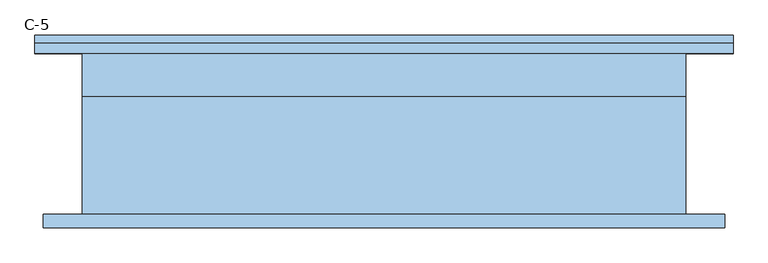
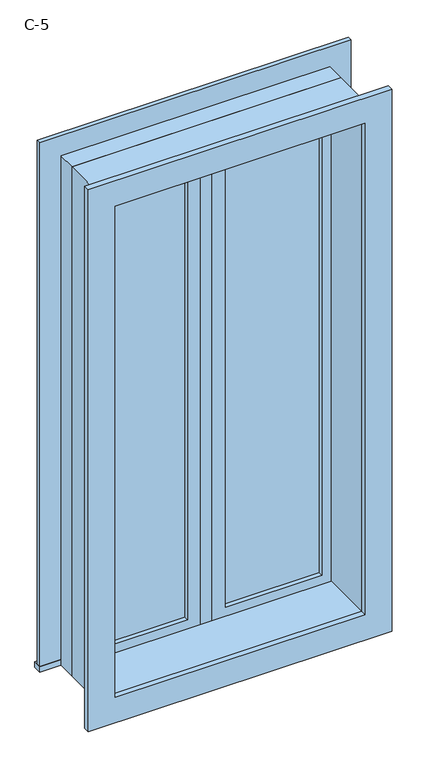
"""IFC4 building model written with IfcOpenShell, lengths in millimetres: window geometry, 双扇平开 - 带贴面 : C-5."""

from ifc_helpers import new_model, si_unit, frame, origin, place, context, project, spatial, polyline, outline, extrude, source, transform, mapped, element, save


def c_5_474962f9(model_context):
    return source(origin(), model_context, "Body", "SweptSolid", [
        extrude(outline(polyline([(63.5, 84.125), (386.5, 84.125), (386.5, 71.425), (63.5, 71.425), (63.5, 84.125)])), frame((0.0, 0.0, 964.5), z_axis=(0.0, 0.0, 1.0), x_axis=(1.0, 0.0, 0.0)), (0.0, 0.0, 1.0), 1673.0),
        extrude(outline(polyline([(2681.95, 19.05), (920.05, 19.05), (920.05, 430.95), (2681.95, 430.95), (2681.95, 19.05)]), holes=[polyline([(2637.5, 63.5), (2637.5, 386.5), (964.5, 386.5), (964.5, 63.5), (2637.5, 63.5)])]), frame((0.0, 55.55, 0.0), z_axis=(0.0, 1.0, 0.0), x_axis=(0.0, 0.0, 1.0)), (0.0, 0.0, 1.0), 44.45),
        extrude(outline(polyline([(19.05, 55.55), (-19.05, 55.55), (-19.05, 119.05), (19.05, 119.05), (19.05, 55.55)])), frame((0.0, 0.0, 920.05), z_axis=(0.0, 0.0, 1.0), x_axis=(1.0, 0.0, 0.0)), (0.0, 0.0, 1.0), 1761.9),
        extrude(outline(polyline([(-63.5, 71.425), (-386.5, 71.425), (-386.5, 84.125), (-63.5, 84.125), (-63.5, 71.425)])), frame((0.0, 0.0, 964.5), z_axis=(0.0, 0.0, 1.0), x_axis=(1.0, 0.0, 0.0)), (0.0, 0.0, 1.0), 1673.0),
        extrude(outline(polyline([(2681.95, -430.95), (920.05, -430.95), (920.05, -19.05), (2681.95, -19.05), (2681.95, -430.95)]), holes=[polyline([(2637.5, -386.5), (2637.5, -63.5), (964.5, -63.5), (964.5, -386.5), (2637.5, -386.5)])]), frame((0.0, 55.55, 0.0), z_axis=(0.0, 1.0, 0.0), x_axis=(0.0, 0.0, 1.0)), (0.0, 0.0, 1.0), 44.45),
        extrude(outline(polyline([(2701.0, -450.0), (901.0, -450.0), (901.0, 450.0), (2701.0, 450.0), (2701.0, -450.0)]), holes=[polyline([(2669.25, -418.25), (2669.25, 418.25), (932.75, 418.25), (932.75, -418.25), (2669.25, -418.25)])]), frame((0.0, -120.0, 0.0), z_axis=(0.0, 1.0, 0.0), x_axis=(0.0, 0.0, 1.0)), (0.0, 0.0, 1.0), 175.55),
        extrude(outline(polyline([(2701.0, 450.0), (2701.0, -450.0), (901.0, -450.0), (901.0, 450.0), (2701.0, 450.0)]), holes=[polyline([(2681.95, 430.95), (920.05, 430.95), (920.05, -430.95), (2681.95, -430.95), (2681.95, 430.95)])]), frame((0.0, 55.55, 0.0), z_axis=(0.0, 1.0, 0.0), x_axis=(0.0, 0.0, 1.0)), (0.0, 0.0, 1.0), 64.45),
        extrude(outline(polyline([(-520.95, 147.7), (520.95, 147.7), (520.95, 120.0), (-520.95, 120.0), (-520.95, 147.7)])), frame((0.0, 0.0, 901.0), z_axis=(0.0, 0.0, 1.0), x_axis=(1.0, 0.0, 0.0)), (0.0, 0.0, 1.0), 19.05),
        extrude(outline(polyline([(2681.95, -430.95), (2681.95, 430.95), (920.05, 430.95), (920.05, 520.95), (2771.95, 520.95), (2771.95, -520.95), (920.05, -520.95), (920.05, -430.95), (2681.95, -430.95)])), frame((0.0, 120.0, 0.0), z_axis=(0.0, 1.0, 0.0), x_axis=(0.0, 0.0, 1.0)), (0.0, 0.0, 1.0), 15.0),
        extrude(outline(polyline([(2759.25, 508.25), (2759.25, -508.25), (842.75, -508.25), (842.75, 508.25), (2759.25, 508.25)]), holes=[polyline([(2669.25, 418.25), (932.75, 418.25), (932.75, -418.25), (2669.25, -418.25), (2669.25, 418.25)])]), frame((0.0, -140.0, 0.0), z_axis=(0.0, 1.0, 0.0), x_axis=(0.0, 0.0, 1.0)), (0.0, 0.0, 1.0), 20.0),
    ])


if __name__ == "__main__":
    model = new_model("IFC4")
    model_context = context("Model", 3, world=origin())
    ifc_project = project(units=[si_unit("LENGTHUNIT", "METRE", prefix="MILLI")], contexts=[model_context])
    site = spatial("IfcSite", under=ifc_project)
    building = spatial("IfcBuilding", under=site)
    placement = place(None, origin())
    c_5_shape = c_5_474962f9(model_context)
    element("IfcWindow", 1, ObjectType="双扇平开 - 带贴面 : C-5", at=placement, inside=building, context=model_context, shape_type="MappedRepresentation", body=[
        mapped(c_5_shape, transform((0.0, 0.0, 0.0), x_axis=(1.0, 0.0, 0.0), y_axis=(0.0, 1.0, 0.0), z_axis=(0.0, 0.0, 1.0))),
    ])
    save(model, "model.ifc")
